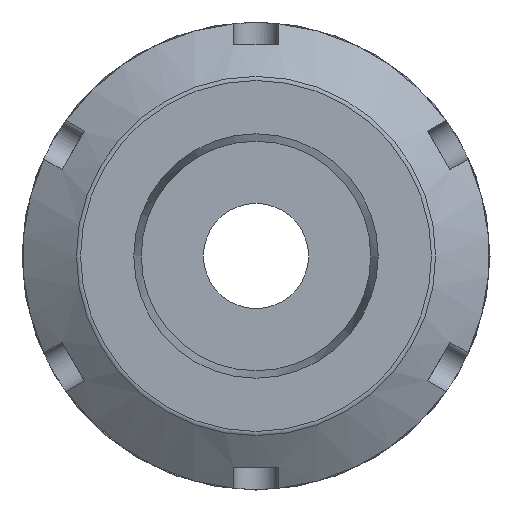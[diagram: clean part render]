
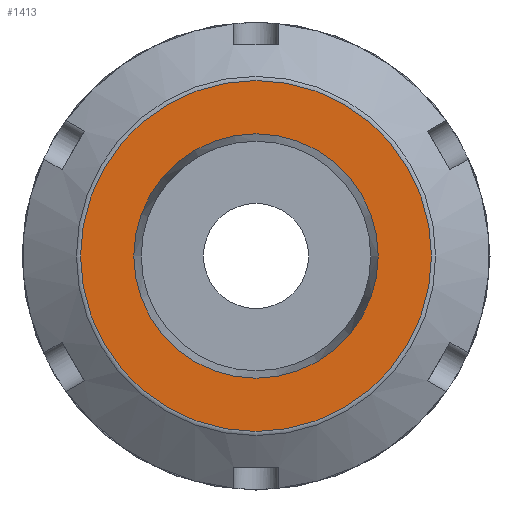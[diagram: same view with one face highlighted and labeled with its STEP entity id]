
A CAD part, front view. The second image highlights one B-rep face of the part: STEP entity #1413.
In plain terms, the highlighted planar face has unit normal (0, -1, 0) as drawn and (0, 1, 0) by its records, which use the part's own axes.
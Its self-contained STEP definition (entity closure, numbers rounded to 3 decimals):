
#140=FACE_BOUND('',#340,.T.);
#176=PLANE('',#1647);
#252=FACE_OUTER_BOUND('',#339,.T.);
#339=EDGE_LOOP('',(#1309));
#340=EDGE_LOOP('',(#1310));
#573=CIRCLE('',#1646,23.697);
#574=CIRCLE('',#1648,16.5);
#710=VERTEX_POINT('',#2707);
#711=VERTEX_POINT('',#2711);
#911=EDGE_CURVE('',#710,#710,#573,.T.);
#912=EDGE_CURVE('',#711,#711,#574,.T.);
#1309=ORIENTED_EDGE('',*,*,#911,.F.);
#1310=ORIENTED_EDGE('',*,*,#912,.T.);
#1413=ADVANCED_FACE('',(#252,#140),#176,.T.);
#1646=AXIS2_PLACEMENT_3D('',#2709,#2024,#2025);
#1647=AXIS2_PLACEMENT_3D('',#2710,#2026,#2027);
#1648=AXIS2_PLACEMENT_3D('',#2712,#2028,#2029);
#2024=DIRECTION('center_axis',(0.,-1.,0.));
#2025=DIRECTION('ref_axis',(-1.,0.,0.));
#2026=DIRECTION('center_axis',(0.,1.,0.));
#2027=DIRECTION('ref_axis',(0.,0.,1.));
#2028=DIRECTION('center_axis',(0.,-1.,0.));
#2029=DIRECTION('ref_axis',(1.,0.,0.));
#2707=CARTESIAN_POINT('',(0.,26.,23.697));
#2709=CARTESIAN_POINT('Origin',(0.,26.,0.));
#2710=CARTESIAN_POINT('Origin',(24.,26.,0.));
#2711=CARTESIAN_POINT('',(-16.5,26.,0.));
#2712=CARTESIAN_POINT('Origin',(0.,26.,0.));
